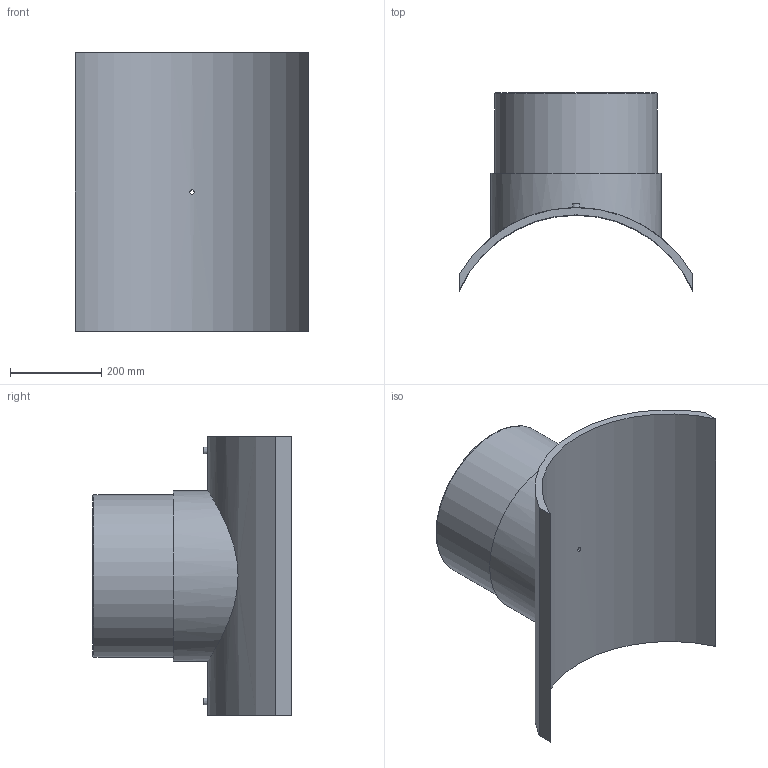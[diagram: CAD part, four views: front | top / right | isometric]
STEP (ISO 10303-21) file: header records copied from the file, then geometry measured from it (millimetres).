
FILE_DESCRIPTION(/* description */ ('PLASSON BRANCH SADDLE 560x355'),/* implementation_level */ '2;1');
FILE_NAME(/* name */ 'C:\Dropbox\KIMPROJECTS-Inventor 2019\99-16-3568-Processing\ElectroFusion Fittings\495803\stp\495803560355T.stp',/* time_stamp */ '2024-04-04T11:53:09+02:00',/* author */ ('KIM'),/* organization */ (''),/* preprocessor_version */ 'ST-DEVELOPER v17.2',/* originating_system */ 'Autodesk Inventor 2019',/* authorisation */ '');
FILE_SCHEMA (('AUTOMOTIVE_DESIGN { 1 0 10303 214 3 1 1 }'));
Length unit declared in the file: millimetre
Products named in the file (1): 495803560355T
Bounding box: 512 x 434.58 x 610 mm (x, y, z)
Volume: 17056154.2 mm3; surface area: 1403644.7 mm2
Topology: 1 solids, 1 shells, 29 faces, 60 edges, 43 vertices
Faces by surface type: plane 13, cylinder 12, torus 2, cone 2
Full cylindrical faces by diameter (mm): 4 x2, 9.6 x1, 10 x2, 16 x1, 284 x1, 355 x1, 372.75 x1
Entity records: 1118 total; most frequent: CARTESIAN_POINT 432, DIRECTION 139, ORIENTED_EDGE 120, EDGE_CURVE 60, AXIS2_PLACEMENT_3D 60, VERTEX_POINT 43, EDGE_LOOP 41, CIRCLE 30
